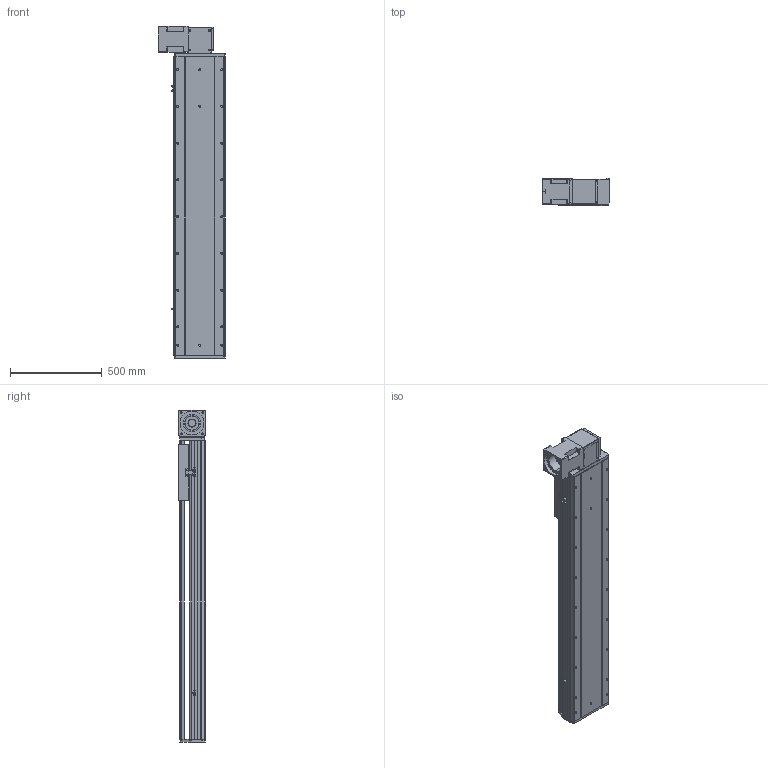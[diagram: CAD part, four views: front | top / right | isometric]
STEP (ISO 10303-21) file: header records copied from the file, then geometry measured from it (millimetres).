
FILE_DESCRIPTION (( 'STEP AP214' ), '1' );
FILE_NAME ('RTB28R-XX-1200-BR-M100-XX-C4.STEP', '2025-12-22T01:11:45', ( '' ), ( '' ), 'SwSTEP 2.0', 'SolidWorks 2018', '' );
FILE_SCHEMA (( 'AUTOMOTIVE_DESIGN' ));
Length unit declared in the file: millimetre
Products named in the file (4): RTB28S-GY-008^RTB28R-XX-XX-BR-M100-XX-C4; RTB28R-XX-1200-BR-M100-XX-C4; RTB28S-GY-004^RTB28R-XX-XX-BR-M100-XX-C4; RTB28S-GY-011^RTB28R-XX-XX-BR-M100-XX-C4
Assembly tree (3 placements, depth 2):
  RTB28R-XX-1200-BR-M100-XX-C4
    RTB28S-GY-011^RTB28R-XX-XX-BR-M100-XX-C4
    RTB28S-GY-004^RTB28R-XX-XX-BR-M100-XX-C4
    RTB28S-GY-008^RTB28R-XX-XX-BR-M100-XX-C4
Bounding box: 370 x 145 x 1807 mm (x, y, z)
Volume: 32761092.5 mm3; surface area: 3146258.7 mm2
Topology: 3 solids, 4 shells, 998 faces, 2640 edges, 1696 vertices
Faces by surface type: plane 458, cylinder 369, bspline 87, cone 80, torus 4
Entity records: 42688 total; most frequent: CARTESIAN_POINT 11395, ORIENTED_EDGE 5216, DIRECTION 5064, EDGE_CURVE 2608, AXIS2_PLACEMENT_3D 1741, VERTEX_POINT 1696, LINE 1582, VECTOR 1582
